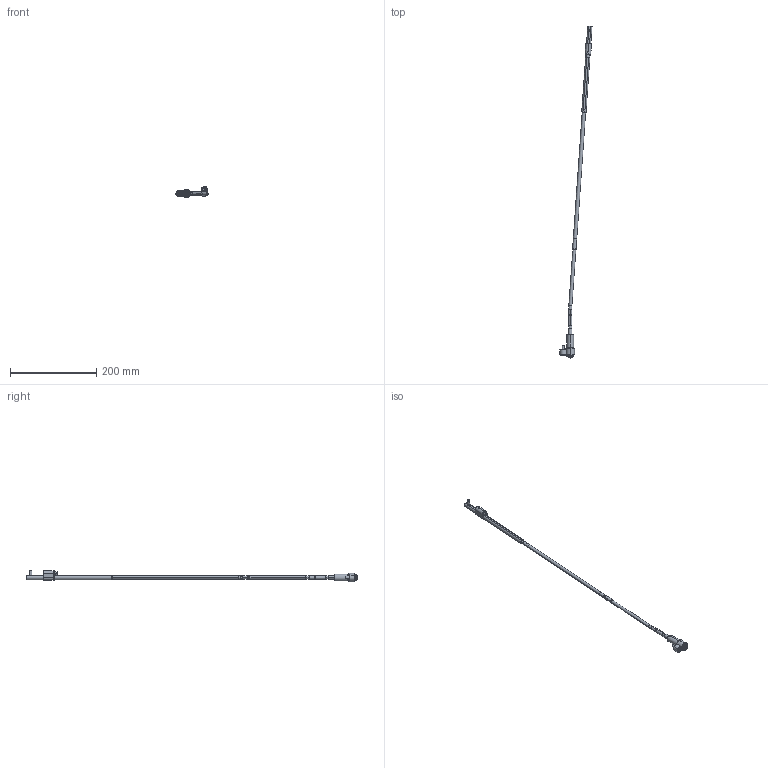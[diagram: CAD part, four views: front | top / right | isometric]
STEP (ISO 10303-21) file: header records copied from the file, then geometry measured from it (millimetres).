
FILE_DESCRIPTION (( 'STEP AP214' ), '1' );
FILE_NAME ('WL080125-EJE 4°.STEP', '2021-03-19T15:29:41', ( '' ), ( '' ), 'SwSTEP 2.0', 'SolidWorks 2019', '' );
FILE_SCHEMA (( 'AUTOMOTIVE_DESIGN' ));
Length unit declared in the file: millimetre
Products named in the file (17): WL080100-C; 1DIN912545_DIN 912 M5 x 50 --- 50C; Web-WL08-A3; Web-WL08-A2; 9DR2206-TOR; Web-WL08XX-A7_ON-WL080125-4; WL080100-B1_WL0800FF-1; WL080100-B_WL0800FF; Web-WL08-F01; 1DIN912616_DIN 912 M6 x 16 --- 16C; Web-WL08-A1; 3IMAN4X2-150_con sello; WL080100-D; Web-WL08-F00.SLDPRT; WL080100-E; WL080125-EJE 4°; Web-WP08-1
Assembly tree (16 placements, depth 3):
  WL080125-EJE 4°
    Web-WP08-1
    Web-WL08XX-A7_ON-WL080125-4
    Web-WL08-A3
    Web-WL08-A2
    Web-WL08-A1
    WL080100-D
    WL080100-C
    WL080100-B_WL0800FF
      WL080100-B1_WL0800FF-1
      3IMAN4X2-150_con sello
    WL080100-E
    9DR2206-TOR
    Web-WL08-F00.SLDPRT
      Web-WL08-F01
      1DIN912545_DIN 912 M5 x 50 --- 50C
      1DIN912616_DIN 912 M6 x 16 --- 16C
Bounding box: 74.53 x 770.73 x 26.9 mm (x, y, z)
Volume: 58701.4 mm3; surface area: 34415.9 mm2
Topology: 15 solids, 15 shells, 424 faces, 888 edges, 516 vertices
Faces by surface type: plane 132, cylinder 128, cone 116, torus 48
Entity records: 13492 total; most frequent: DIRECTION 2218, CARTESIAN_POINT 2045, ORIENTED_EDGE 1756, AXIS2_PLACEMENT_3D 921, EDGE_CURVE 878, VERTEX_POINT 516, CIRCLE 476, EDGE_LOOP 468
